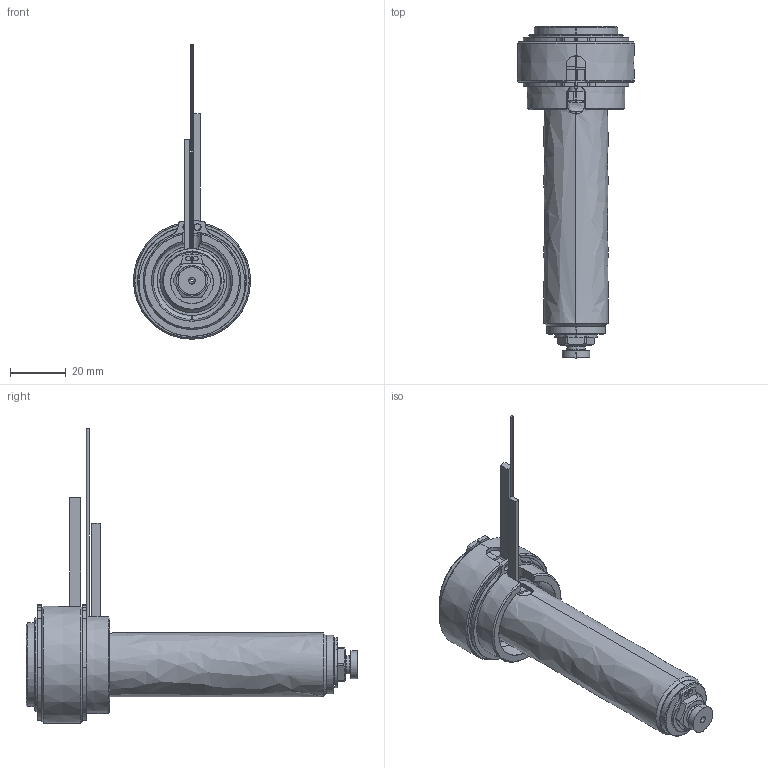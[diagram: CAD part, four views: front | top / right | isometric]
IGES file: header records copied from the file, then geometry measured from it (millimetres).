
Start section: SolidWorks IGES file using analytic representation for surfaces
Global section: file name: C:\Users\luca.EMPAD\Desktop\TEM\UGBE3502-M-A-5 [Ød-1.0 P-0 ØC-6.0].IGS; native system: SolidWorks 2012; preprocessor: SolidWorks 2012; author: luca; date: 120330.135423; units: millimetre
Bounding box: 42 x 119 x 105.6 mm (x, y, z)
Surface area: 27458.6 mm2 (no closed solid volume)
Topology: 0 solids, 0 shells, 176 faces, 3150 edges, 3150 vertices
Faces by surface type: revolution 111, bspline 65
